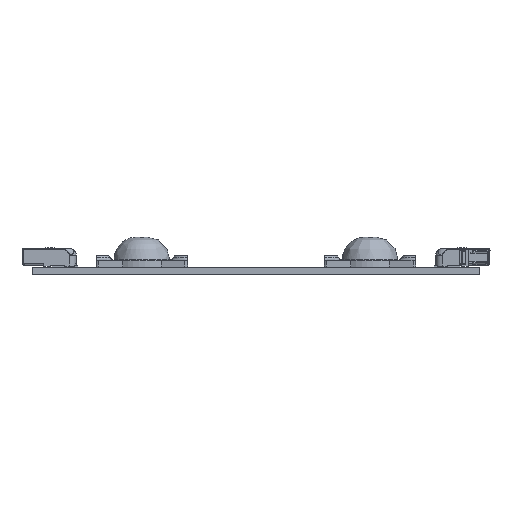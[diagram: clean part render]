
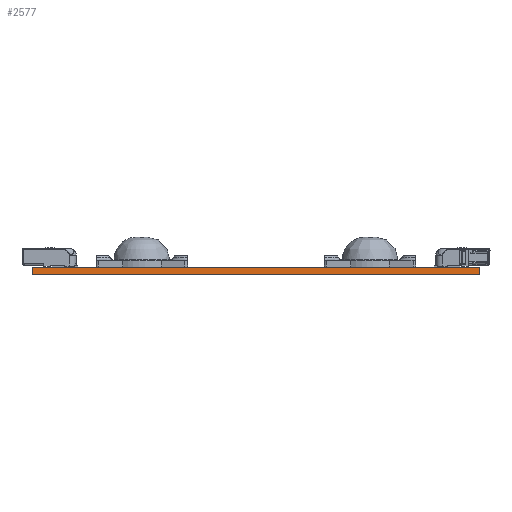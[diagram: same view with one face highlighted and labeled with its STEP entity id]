
A CAD part, front view. The second image highlights one B-rep face of the part: STEP entity #2577.
In plain terms, the highlighted planar face has unit normal (0, -1, 0).
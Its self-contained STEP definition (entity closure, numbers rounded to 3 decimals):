
#22 = LINE ( 'NONE', #8651, #12446 ) ;
#39 = DIRECTION ( 'NONE',  ( -1., 0., 0. ) ) ;
#609 = VERTEX_POINT ( 'NONE', #10199 ) ;
#1849 = EDGE_CURVE ( 'NONE', #19670, #26842, #2562, .T. ) ;
#2562 = LINE ( 'NONE', #26074, #8778 ) ;
#2577 = ADVANCED_FACE ( 'NONE', ( #30511 ), #26990, .F. ) ;
#5184 = ORIENTED_EDGE ( 'NONE', *, *, #32136, .T. ) ;
#5667 = AXIS2_PLACEMENT_3D ( 'NONE', #24870, #24771, #24663 ) ;
#6032 = ORIENTED_EDGE ( 'NONE', *, *, #28363, .F. ) ;
#6361 = CARTESIAN_POINT ( 'NONE',  ( 21.059, -42.351, 0.85 ) ) ;
#7249 = ORIENTED_EDGE ( 'NONE', *, *, #8487, .F. ) ;
#8487 = EDGE_CURVE ( 'NONE', #609, #33326, #34296, .T. ) ;
#8522 = EDGE_LOOP ( 'NONE', ( #6032, #7249, #5184, #19598 ) ) ;
#8651 = CARTESIAN_POINT ( 'NONE',  ( -76.941, -42.351, 0.85 ) ) ;
#8778 = VECTOR ( 'NONE', #39, 1000. ) ;
#9026 = DIRECTION ( 'NONE',  ( 0., 0., -1. ) ) ;
#10199 = CARTESIAN_POINT ( 'NONE',  ( -76.941, -42.351, 0.85 ) ) ;
#10981 = CARTESIAN_POINT ( 'NONE',  ( 21.059, -42.351, 0.85 ) ) ;
#11274 = DIRECTION ( 'NONE',  ( 0., 0., -1. ) ) ;
#12446 = VECTOR ( 'NONE', #11274, 1000. ) ;
#19598 = ORIENTED_EDGE ( 'NONE', *, *, #1849, .F. ) ;
#19670 = VERTEX_POINT ( 'NONE', #20511 ) ;
#20139 = DIRECTION ( 'NONE',  ( 1., 0., 0. ) ) ;
#20511 = CARTESIAN_POINT ( 'NONE',  ( 21.059, -42.351, -0.85 ) ) ;
#21358 = CARTESIAN_POINT ( 'NONE',  ( -76.941, -42.351, 0.85 ) ) ;
#24663 = DIRECTION ( 'NONE',  ( 0., 0., 1. ) ) ;
#24771 = DIRECTION ( 'NONE',  ( 0., 1., 0. ) ) ;
#24780 = VECTOR ( 'NONE', #9026, 1000. ) ;
#24870 = CARTESIAN_POINT ( 'NONE',  ( -76.941, -42.351, 0.85 ) ) ;
#26074 = CARTESIAN_POINT ( 'NONE',  ( 21.059, -42.351, -0.85 ) ) ;
#26842 = VERTEX_POINT ( 'NONE', #33970 ) ;
#26990 = PLANE ( 'NONE',  #5667 ) ;
#27308 = VECTOR ( 'NONE', #20139, 1000. ) ;
#28363 = EDGE_CURVE ( 'NONE', #33326, #19670, #31799, .T. ) ;
#30511 = FACE_OUTER_BOUND ( 'NONE', #8522, .T. ) ;
#31799 = LINE ( 'NONE', #6361, #24780 ) ;
#32136 = EDGE_CURVE ( 'NONE', #609, #26842, #22, .T. ) ;
#33326 = VERTEX_POINT ( 'NONE', #10981 ) ;
#33970 = CARTESIAN_POINT ( 'NONE',  ( -76.941, -42.351, -0.85 ) ) ;
#34296 = LINE ( 'NONE', #21358, #27308 ) ;
